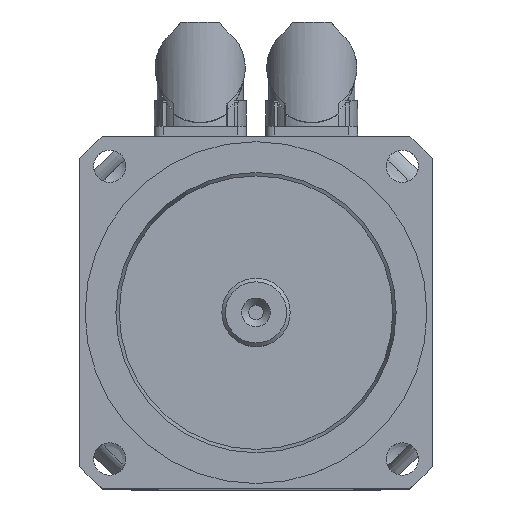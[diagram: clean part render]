
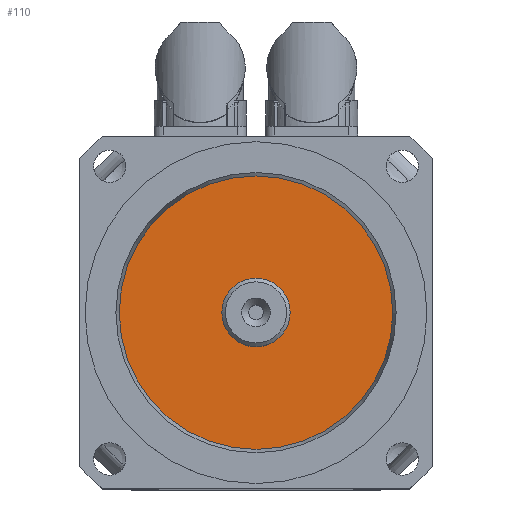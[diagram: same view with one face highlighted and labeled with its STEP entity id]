
A CAD part, top view. The second image highlights one B-rep face of the part: STEP entity #110.
In plain terms, the highlighted free-form (B-spline) face has degree [1, 1] with [2, 2] control points.
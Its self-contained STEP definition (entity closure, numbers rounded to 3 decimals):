
#83=CARTESIAN_POINT('',(-38.0,38.0,160.5));
#84=CARTESIAN_POINT('',(38.0,38.0,160.5));
#85=CARTESIAN_POINT('',(-38.0,-38.0,160.5));
#86=CARTESIAN_POINT('',(38.0,-38.0,160.5));
#87=B_SPLINE_SURFACE_WITH_KNOTS('',1,1,((#83,#85),(#84,#86)),.UNSPECIFIED.,.F.,.F.,.U.,(2,2),(2,2),(0.0,76.0),(0.0,76.0),.UNSPECIFIED.);
#88=CARTESIAN_POINT('',(38.0,0.0,160.5));
#89=VERTEX_POINT('',#88);
#90=CARTESIAN_POINT('',(0.0,0.0,160.5));
#91=DIRECTION('',(0.0,0.0,1.0));
#92=DIRECTION('',(1.0,0.0,0.0));
#93=AXIS2_PLACEMENT_3D('',#90,#91,#92);
#94=CIRCLE('',#93,38.0);
#95=EDGE_CURVE('',#89,#89,#94,.T.);
#96=ORIENTED_EDGE('',*,*,#95,.T.);
#97=EDGE_LOOP('',(#96));
#98=FACE_OUTER_BOUND('',#97,.T.);
#99=CARTESIAN_POINT('',(9.5,0.,160.5));
#100=VERTEX_POINT('',#99);
#101=CARTESIAN_POINT('',(0.0,0.0,160.5));
#102=DIRECTION('',(0.0,0.0,-1.0));
#103=DIRECTION('',(-1.0,0.0,0.0));
#104=AXIS2_PLACEMENT_3D('',#101,#102,#103);
#105=CIRCLE('',#104,9.5);
#106=EDGE_CURVE('',#100,#100,#105,.T.);
#107=ORIENTED_EDGE('',*,*,#106,.T.);
#108=EDGE_LOOP('',(#107));
#109=FACE_BOUND('',#108,.T.);
#110=ADVANCED_FACE('',(#98,#109),#87,.F.);
